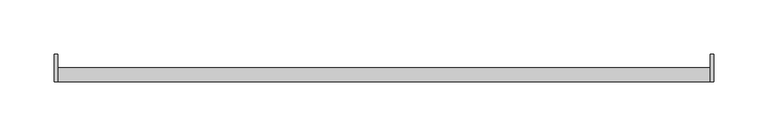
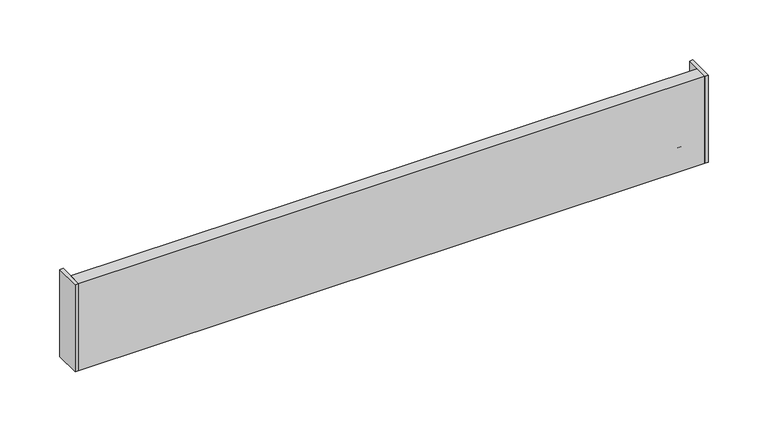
"""IFC4 building model written with IfcOpenShell, lengths in millimetres: furniture geometry."""

from ifc_helpers import new_model, si_unit, frame, origin, place, context, project, spatial, polyline, outline, extrude, source, transform, mapped, element, save


def furniture_17bfd149(model_context):
    return source(origin(), model_context, "Body", "SweptSolid", [
        extrude(outline(polyline([(-301.625, 12.6999996), (-301.625, -12.7000004), (-304.8, -12.7000004), (-304.8, 12.6999996), (-301.625, 12.6999996)])), frame((0.0, 0.0, 876.3), z_axis=(0.0, 0.0, 1.0), x_axis=(1.0, 0.0, 0.0)), (0.0, 0.0, 1.0), 88.9),
        extrude(outline(polyline([(304.8, 12.6999996), (304.8, -12.7000004), (301.625, -12.7000004), (301.625, 12.6999996), (304.8, 12.6999996)])), frame((0.0, 0.0, 876.3), z_axis=(0.0, 0.0, 1.0), x_axis=(1.0, 0.0, 0.0)), (0.0, 0.0, 1.0), 88.9),
        extrude(outline(polyline([(301.625, 0.0), (301.625, -12.7000004), (-301.625, -12.7000004), (-301.625, 0.0), (301.625, 0.0)])), frame((0.0, 0.0, 876.3), z_axis=(0.0, 0.0, 1.0), x_axis=(1.0, 0.0, 0.0)), (0.0, 0.0, 1.0), 88.9),
        extrude(outline(polyline([(-12.7000004, 952.4999966), (-12.7000004, 965.2), (0.0, 965.2), (0.0, 876.3), (-12.7000004, 876.3), (-12.7000004, 901.6999966), (-3.1750002, 901.6999966), (-3.1750002, 914.3999966), (-12.7000004, 914.3999966), (-12.7000004, 939.7999966), (-3.1750002, 939.7999966), (-3.1750002, 952.4999966), (-12.7000004, 952.4999966)])), frame((-301.625, 0.0, 0.0), z_axis=(1.0, 0.0, 0.0), x_axis=(0.0, 1.0, 0.0)), (0.0, 0.0, 1.0), 603.25),
        extrude(outline(polyline([(-12.7000004, 965.2), (0.0, 965.2), (0.0, 952.4999966), (12.6999996, 952.4999966), (12.6999996, 888.999997), (0.0, 888.999997), (0.0, 876.3), (-12.7000004, 876.3), (-12.7000004, 965.2)])), frame((-304.8, 0.0, 0.0), z_axis=(1.0, 0.0, 0.0), x_axis=(0.0, 1.0, 0.0)), (0.0, 0.0, 1.0), 3.175),
        extrude(outline(polyline([(-12.7000004, 965.2), (0.0, 965.2), (0.0, 952.4999966), (12.6999996, 952.4999966), (12.6999996, 888.999997), (0.0, 888.999997), (0.0, 876.3), (-12.7000004, 876.3), (-12.7000004, 965.2)])), frame((301.625, 0.0, 0.0), z_axis=(1.0, 0.0, 0.0), x_axis=(0.0, 1.0, 0.0)), (0.0, 0.0, 1.0), 3.175),
    ])


if __name__ == "__main__":
    model = new_model("IFC4")
    model_context = context("Model", 3, world=origin())
    ifc_project = project(units=[si_unit("LENGTHUNIT", "METRE", prefix="MILLI")], contexts=[model_context])
    site = spatial("IfcSite", under=ifc_project)
    building = spatial("IfcBuilding", under=site)
    placement = place(None, origin())
    furniture_shape = furniture_17bfd149(model_context)
    element("IfcFurniture", 1, ObjectType="HermanMiller_ActionOffice_A3610_ToolBar : 4\"H x 24\"W", at=placement, inside=building, context=model_context, shape_type="MappedRepresentation", body=[
        mapped(furniture_shape, transform((0.0, 0.0, 0.0), x_axis=(1.0, 0.0, 0.0), y_axis=(0.0, 1.0, 0.0), z_axis=(0.0, 0.0, 1.0))),
    ])
    save(model, "model.ifc")
